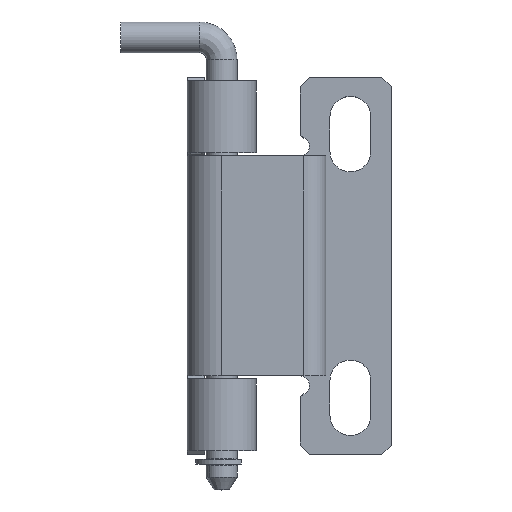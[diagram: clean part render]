
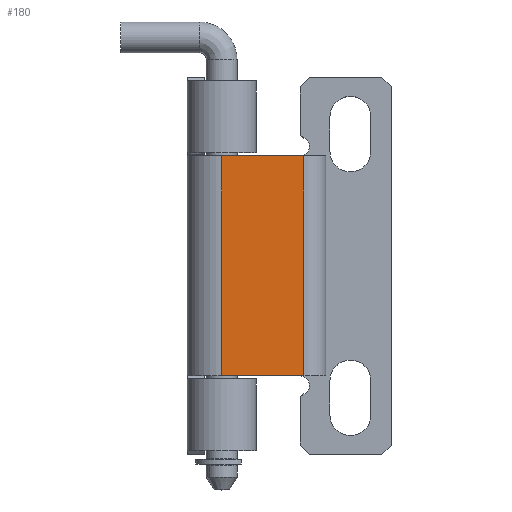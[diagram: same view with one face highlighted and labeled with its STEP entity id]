
A CAD part, top view. The second image highlights one B-rep face of the part: STEP entity #180.
In plain terms, the highlighted planar face has unit normal (0, 0, 1).
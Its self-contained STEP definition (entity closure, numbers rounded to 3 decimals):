
#44=B_SPLINE_CURVE_WITH_KNOTS('',1,(#3596,#3597),.UNSPECIFIED.,.F.,.F.,
(2,2),(0.,13.051),.UNSPECIFIED.);
#45=B_SPLINE_CURVE_WITH_KNOTS('',1,(#3598,#3599),.UNSPECIFIED.,.F.,.F.,
(2,2),(0.,35.),.UNSPECIFIED.);
#46=B_SPLINE_CURVE_WITH_KNOTS('',1,(#3600,#3601),.UNSPECIFIED.,.F.,.F.,
(2,2),(0.,13.051),.UNSPECIFIED.);
#180=ADVANCED_FACE('',(#294),#1830,.T.);
#294=FACE_OUTER_BOUND('',#410,.T.);
#410=EDGE_LOOP('',(#677,#678,#679,#680));
#677=ORIENTED_EDGE('',*,*,#1158,.T.);
#678=ORIENTED_EDGE('',*,*,#1159,.T.);
#679=ORIENTED_EDGE('',*,*,#1160,.T.);
#680=ORIENTED_EDGE('',*,*,#1156,.F.);
#1156=EDGE_CURVE('',#1696,#1697,#1573,.T.);
#1158=EDGE_CURVE('',#1696,#1698,#44,.T.);
#1159=EDGE_CURVE('',#1698,#1699,#45,.T.);
#1160=EDGE_CURVE('',#1699,#1697,#46,.T.);
#1573=(
BOUNDED_CURVE()
B_SPLINE_CURVE(1,(#3591,#3592),.UNSPECIFIED.,.F.,.F.)
B_SPLINE_CURVE_WITH_KNOTS((2,2),(0.,35.),.UNSPECIFIED.)
CURVE()
GEOMETRIC_REPRESENTATION_ITEM()
RATIONAL_B_SPLINE_CURVE((1.,1.))
REPRESENTATION_ITEM('')
);
#1696=VERTEX_POINT('',#3469);
#1697=VERTEX_POINT('',#3470);
#1698=VERTEX_POINT('',#3471);
#1699=VERTEX_POINT('',#3472);
#1830=PLANE('',#2080);
#2080=AXIS2_PLACEMENT_3D('',#2986,#2308,$);
#2308=DIRECTION('',(0.,0.,1.));
#2986=CARTESIAN_POINT('',(20.485,-17.5,9.537));
#3469=CARTESIAN_POINT('',(33.587,17.5,9.537));
#3470=CARTESIAN_POINT('',(33.587,-17.5,9.537));
#3471=CARTESIAN_POINT('',(20.485,17.5,9.537));
#3472=CARTESIAN_POINT('',(20.485,-17.5,9.537));
#3591=CARTESIAN_POINT('',(33.587,17.5,9.537));
#3592=CARTESIAN_POINT('',(33.587,-17.5,9.537));
#3596=CARTESIAN_POINT('',(33.587,17.5,9.537));
#3597=CARTESIAN_POINT('',(20.485,17.5,9.537));
#3598=CARTESIAN_POINT('',(20.485,17.5,9.537));
#3599=CARTESIAN_POINT('',(20.485,-17.5,9.537));
#3600=CARTESIAN_POINT('',(20.485,-17.5,9.537));
#3601=CARTESIAN_POINT('',(33.587,-17.5,9.537));
